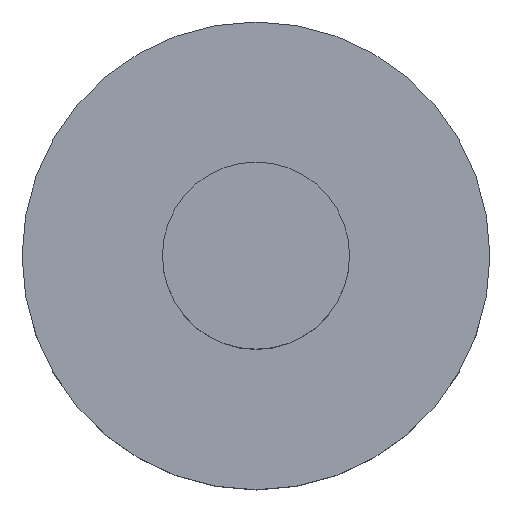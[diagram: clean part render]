
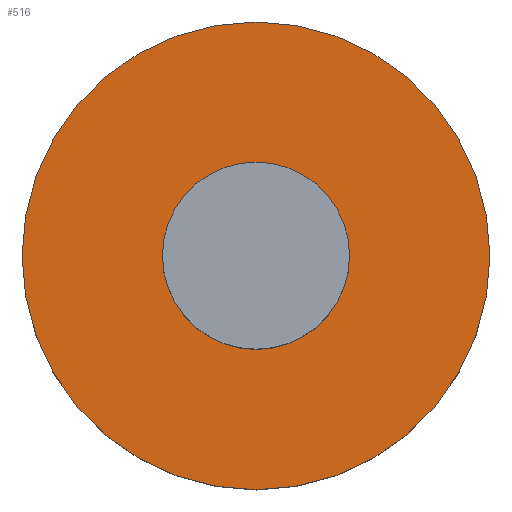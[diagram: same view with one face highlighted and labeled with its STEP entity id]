
A CAD part, top view. The second image highlights one B-rep face of the part: STEP entity #516.
In plain terms, the highlighted planar face has unit normal (0, 0, 1).
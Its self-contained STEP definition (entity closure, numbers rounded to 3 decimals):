
#151=CARTESIAN_POINT('',(0.,0.,-0.7));
#152=DIRECTION('',(0.,0.,1.));
#153=DIRECTION('',(0.,1.,0.));
#154=AXIS2_PLACEMENT_3D('',#151,#152,#153);
#156=CARTESIAN_POINT('',(0.,0.,-0.7));
#157=DIRECTION('',(0.,0.,-1.));
#158=DIRECTION('',(0.,1.,0.));
#159=AXIS2_PLACEMENT_3D('',#156,#157,#158);
#161=CARTESIAN_POINT('',(0.,0.,-0.7));
#162=DIRECTION('',(0.,0.,-1.));
#163=DIRECTION('',(0.,1.,0.));
#164=AXIS2_PLACEMENT_3D('',#161,#162,#163);
#174=CARTESIAN_POINT('',(0.,0.,-0.7));
#175=DIRECTION('',(0.,0.,1.));
#176=DIRECTION('',(0.,1.,0.));
#177=AXIS2_PLACEMENT_3D('',#174,#175,#176);
#234=CARTESIAN_POINT('',(0.,1.,-0.7));
#236=VERTEX_POINT('',#234);
#237=CARTESIAN_POINT('',(0.,0.4,-0.7));
#239=VERTEX_POINT('',#237);
#262=CARTESIAN_POINT('',(0.,-1.,-0.7));
#264=VERTEX_POINT('',#262);
#265=CARTESIAN_POINT('',(0.,-0.4,-0.7));
#267=VERTEX_POINT('',#265);
#501=CARTESIAN_POINT('',(0.,0.,-0.7));
#502=DIRECTION('',(0.,0.,-1.));
#503=DIRECTION('',(0.,-1.,0.));
#504=AXIS2_PLACEMENT_3D('',#501,#502,#503);
#505=PLANE('',#504);
#506=ORIENTED_EDGE('',*,*,#494,.F.);
#507=ORIENTED_EDGE('',*,*,#483,.T.);
#508=EDGE_LOOP('',(#506,#507));
#509=FACE_OUTER_BOUND('',#508,.F.);
#511=ORIENTED_EDGE('',*,*,#510,.F.);
#513=ORIENTED_EDGE('',*,*,#512,.T.);
#514=EDGE_LOOP('',(#511,#513));
#515=FACE_BOUND('',#514,.F.);
#516=ADVANCED_FACE('',(#509,#515),#505,.F.);
#155=CIRCLE('',#154,1.);
#160=CIRCLE('',#159,1.);
#165=CIRCLE('',#164,0.4);
#178=CIRCLE('',#177,0.4);
#483=EDGE_CURVE('',#236,#264,#160,.T.);
#494=EDGE_CURVE('',#236,#264,#155,.T.);
#510=EDGE_CURVE('',#239,#267,#165,.T.);
#512=EDGE_CURVE('',#239,#267,#178,.T.);
